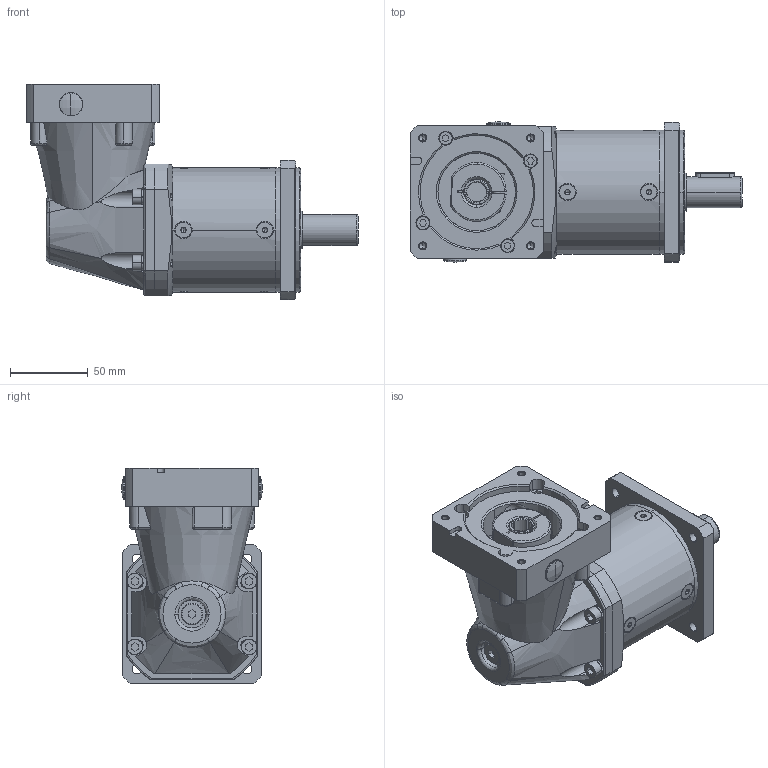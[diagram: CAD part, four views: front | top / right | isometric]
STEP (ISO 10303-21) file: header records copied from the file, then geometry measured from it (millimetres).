
FILE_DESCRIPTION (( 'STEP AP214' ), '1' );
FILE_NAME ('GSFR-080-0_ _-N034_-XX Two Stage.step', '2025-08-22T20:47:43', ( '' ), ( '' ), 'SwSTEP 2.0', 'SolidWorks 2020', '' );
FILE_SCHEMA (( 'AUTOMOTIVE_DESIGN' ));
Length unit declared in the file: millimetre
Products named in the file (1): GSFR-080-0_ _-N034_-XX Two Stage
Bounding box: 214 x 90.39 x 139 mm (x, y, z)
Volume: 687750.6 mm3; surface area: 249840.9 mm2
Topology: 60 solids, 60 shells, 1699 faces, 4384 edges, 2743 vertices
Faces by surface type: cylinder 544, plane 463, bspline 459, cone 233
Entity records: 69746 total; most frequent: CARTESIAN_POINT 30464, ORIENTED_EDGE 8536, DIRECTION 7525, EDGE_CURVE 4268, AXIS2_PLACEMENT_3D 3111, VERTEX_POINT 2743, EDGE_LOOP 1927, CIRCLE 1870
